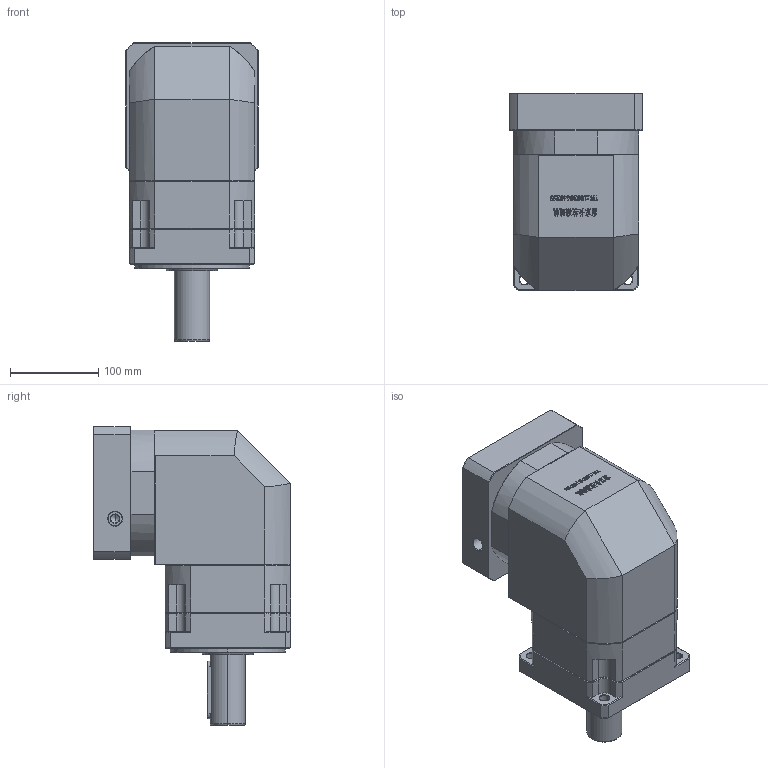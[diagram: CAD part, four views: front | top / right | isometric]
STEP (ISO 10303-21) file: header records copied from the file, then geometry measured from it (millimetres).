
FILE_DESCRIPTION (( 'STEP AP214' ), '1' );
FILE_NAME ('ZBR142A-D40-L1-22-110-145-M8.step', '2023-03-18T09:20:35', ( '' ), ( '' ), 'SwSTEP 2.0', 'SolidWorks 2016', '' );
FILE_SCHEMA (( 'AUTOMOTIVE_DESIGN' ));
Length unit declared in the file: millimetre
Products named in the file (1): ZBR142A-D40-L1-22-110-145-M8
Bounding box: 150 x 223 x 337.7 mm (x, y, z)
Volume: 5481539.1 mm3; surface area: 392020.8 mm2
Topology: 6 solids, 6 shells, 2940 faces, 7834 edges, 5043 vertices
Faces by surface type: plane 1540, bspline 595, cylinder 451, cone 332, torus 22
Entity records: 165271 total; most frequent: CARTESIAN_POINT 64606, ORIENTED_EDGE 15608, DIRECTION 11758, EDGE_CURVE 7804, VECTOR 5246, LINE 5246, VERTEX_POINT 5043, AXIS2_PLACEMENT_3D 3256
